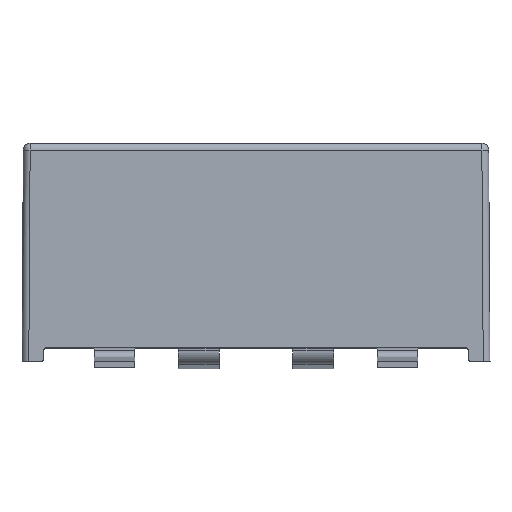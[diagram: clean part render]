
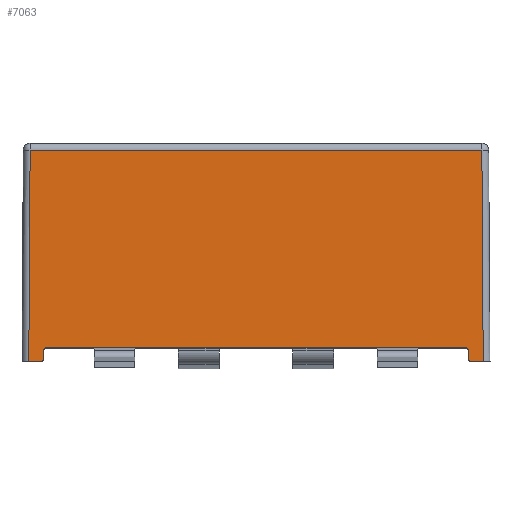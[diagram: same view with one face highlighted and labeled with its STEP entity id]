
A CAD part, top view. The second image highlights one B-rep face of the part: STEP entity #7063.
In plain terms, the highlighted planar face has unit normal (0, 0.006, 1).
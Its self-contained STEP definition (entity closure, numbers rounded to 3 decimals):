
#73 = EDGE_CURVE ( 'NONE', #5790, #1780, #3654, .T. ) ;
#169 = ORIENTED_EDGE ( 'NONE', *, *, #7553, .T. ) ;
#306 = CARTESIAN_POINT ( 'NONE',  ( -7.704, -7.51, 5.247 ) ) ;
#581 =( BOUNDED_CURVE ( )  B_SPLINE_CURVE ( 3, ( #7239, #1611, #4133, #306 ),
 .UNSPECIFIED., .F., .F. ) 
 B_SPLINE_CURVE_WITH_KNOTS ( ( 4, 4 ),
 ( 4.719, 6.283 ),
 .UNSPECIFIED. ) 
 CURVE ( )  GEOMETRIC_REPRESENTATION_ITEM ( )  RATIONAL_B_SPLINE_CURVE ( ( 1., 0.806, 0.806, 1. ) ) 
 REPRESENTATION_ITEM ( '' )  );
#610 = DIRECTION ( 'NONE',  ( -1., 0., 0. ) ) ;
#630 = CARTESIAN_POINT ( 'NONE',  ( 8.301, -0.248, 5.201 ) ) ;
#631 = VECTOR ( 'NONE', #2010, 1000. ) ;
#651 = CARTESIAN_POINT ( 'NONE',  ( 8.35, -7.958, 5.25 ) ) ;
#664 = VERTEX_POINT ( 'NONE', #883 ) ;
#820 = EDGE_CURVE ( 'NONE', #1100, #3605, #581, .T. ) ;
#883 = CARTESIAN_POINT ( 'NONE',  ( 7.804, -7.609, 5.247 ) ) ;
#962 = EDGE_CURVE ( 'NONE', #1780, #4447, #6209, .T. ) ;
#1034 = CARTESIAN_POINT ( 'NONE',  ( -7.806, -7.911, 5.249 ) ) ;
#1100 = VERTEX_POINT ( 'NONE', #4568 ) ;
#1268 = VERTEX_POINT ( 'NONE', #1825 ) ;
#1370 = CARTESIAN_POINT ( 'NONE',  ( -7.906, -8.01, 5.25 ) ) ;
#1426 = LINE ( 'NONE', #1838, #5942 ) ;
#1488 = DIRECTION ( 'NONE',  ( 0., -1., 0.006 ) ) ;
#1611 = CARTESIAN_POINT ( 'NONE',  ( -7.803, -7.551, 5.247 ) ) ;
#1780 = VERTEX_POINT ( 'NONE', #4013 ) ;
#1801 = EDGE_CURVE ( 'NONE', #6591, #3623, #7015, .T. ) ;
#1812 = CARTESIAN_POINT ( 'NONE',  ( 0., -8.01, 5.25 ) ) ;
#1825 = CARTESIAN_POINT ( 'NONE',  ( -8.35, -8.01, 5.25 ) ) ;
#1838 = CARTESIAN_POINT ( 'NONE',  ( 0., -8.01, 5.25 ) ) ;
#1845 = CARTESIAN_POINT ( 'NONE',  ( -7.847, -8.01, 5.25 ) ) ;
#1993 = ORIENTED_EDGE ( 'NONE', *, *, #962, .T. ) ;
#2010 = DIRECTION ( 'NONE',  ( -0.006, 1., -0.006 ) ) ;
#2051 = ORIENTED_EDGE ( 'NONE', *, *, #73, .T. ) ;
#2057 = CARTESIAN_POINT ( 'NONE',  ( -7.704, -7.51, 5.247 ) ) ;
#2340 = VECTOR ( 'NONE', #5639, 1000. ) ;
#2377 = CARTESIAN_POINT ( 'NONE',  ( 7.704, -7.51, 5.247 ) ) ;
#2443 = VECTOR ( 'NONE', #3010, 1000. ) ;
#2544 = EDGE_LOOP ( 'NONE', ( #6371, #2051, #1993, #169, #7007, #3047, #3195, #6891, #7038, #3996, #3182, #3796 ) ) ;
#2632 = CARTESIAN_POINT ( 'NONE',  ( -8.55, -0.248, 5.201 ) ) ;
#3009 = EDGE_CURVE ( 'NONE', #5230, #664, #3040, .T. ) ;
#3010 = DIRECTION ( 'NONE',  ( -0.006, 1., -0.006 ) ) ;
#3040 =( BOUNDED_CURVE ( )  B_SPLINE_CURVE ( 3, ( #6476, #6518, #4714, #5895 ),
 .UNSPECIFIED., .F., .F. ) 
 B_SPLINE_CURVE_WITH_KNOTS ( ( 4, 4 ),
 ( 0., 1.565 ),
 .UNSPECIFIED. ) 
 CURVE ( )  GEOMETRIC_REPRESENTATION_ITEM ( )  RATIONAL_B_SPLINE_CURVE ( ( 1., 0.806, 0.806, 1. ) ) 
 REPRESENTATION_ITEM ( '' )  );
#3047 = ORIENTED_EDGE ( 'NONE', *, *, #3995, .T. ) ;
#3182 = ORIENTED_EDGE ( 'NONE', *, *, #5762, .T. ) ;
#3195 = ORIENTED_EDGE ( 'NONE', *, *, #4702, .F. ) ;
#3357 = CARTESIAN_POINT ( 'NONE',  ( -7.803, -7.477, 5.247 ) ) ;
#3507 = EDGE_CURVE ( 'NONE', #3623, #1100, #6497, .T. ) ;
#3529 = CARTESIAN_POINT ( 'NONE',  ( 7.806, -7.911, 5.249 ) ) ;
#3605 = VERTEX_POINT ( 'NONE', #2057 ) ;
#3623 = VERTEX_POINT ( 'NONE', #3928 ) ;
#3654 =( BOUNDED_CURVE ( )  B_SPLINE_CURVE ( 3, ( #3529, #5438, #7924, #6745 ),
 .UNSPECIFIED., .F., .F. ) 
 B_SPLINE_CURVE_WITH_KNOTS ( ( 4, 4 ),
 ( 1.577, 3.142 ),
 .UNSPECIFIED. ) 
 CURVE ( )  GEOMETRIC_REPRESENTATION_ITEM ( )  RATIONAL_B_SPLINE_CURVE ( ( 1., 0.806, 0.806, 1. ) ) 
 REPRESENTATION_ITEM ( '' )  );
#3669 = CARTESIAN_POINT ( 'NONE',  ( -7.806, -7.969, 5.25 ) ) ;
#3767 = DIRECTION ( 'NONE',  ( 1., 0., 0. ) ) ;
#3796 = ORIENTED_EDGE ( 'NONE', *, *, #3009, .T. ) ;
#3902 = CARTESIAN_POINT ( 'NONE',  ( 0., -7.51, 5.247 ) ) ;
#3928 = CARTESIAN_POINT ( 'NONE',  ( -7.806, -7.911, 5.249 ) ) ;
#3995 = EDGE_CURVE ( 'NONE', #5737, #1268, #8001, .T. ) ;
#3996 = ORIENTED_EDGE ( 'NONE', *, *, #820, .T. ) ;
#4013 = CARTESIAN_POINT ( 'NONE',  ( 7.906, -8.01, 5.25 ) ) ;
#4025 = CARTESIAN_POINT ( 'NONE',  ( 7.803, -7.477, 5.247 ) ) ;
#4133 = CARTESIAN_POINT ( 'NONE',  ( -7.762, -7.51, 5.247 ) ) ;
#4249 = AXIS2_PLACEMENT_3D ( 'NONE', #4584, #7080, #1488 ) ;
#4324 = CARTESIAN_POINT ( 'NONE',  ( -7.906, -8.01, 5.25 ) ) ;
#4388 = EDGE_CURVE ( 'NONE', #5793, #5737, #5721, .T. ) ;
#4401 = LINE ( 'NONE', #651, #2443 ) ;
#4447 = VERTEX_POINT ( 'NONE', #6538 ) ;
#4507 = LINE ( 'NONE', #3902, #7669 ) ;
#4549 = CARTESIAN_POINT ( 'NONE',  ( -8.301, -0.248, 5.201 ) ) ;
#4568 = CARTESIAN_POINT ( 'NONE',  ( -7.804, -7.609, 5.247 ) ) ;
#4584 = CARTESIAN_POINT ( 'NONE',  ( 0., -8.01, 5.25 ) ) ;
#4702 = EDGE_CURVE ( 'NONE', #6591, #1268, #1426, .T. ) ;
#4714 = CARTESIAN_POINT ( 'NONE',  ( 7.803, -7.551, 5.247 ) ) ;
#4909 = DIRECTION ( 'NONE',  ( -0.006, -1., 0.006 ) ) ;
#5197 = PLANE ( 'NONE',  #4249 ) ;
#5230 = VERTEX_POINT ( 'NONE', #2377 ) ;
#5245 = VECTOR ( 'NONE', #4909, 1000. ) ;
#5438 = CARTESIAN_POINT ( 'NONE',  ( 7.806, -7.969, 5.25 ) ) ;
#5478 = CARTESIAN_POINT ( 'NONE',  ( -8.35, -7.958, 5.25 ) ) ;
#5639 = DIRECTION ( 'NONE',  ( -1., 0., 0. ) ) ;
#5651 = DIRECTION ( 'NONE',  ( 1., 0., 0. ) ) ;
#5721 = LINE ( 'NONE', #2632, #2340 ) ;
#5737 = VERTEX_POINT ( 'NONE', #4549 ) ;
#5744 = VECTOR ( 'NONE', #3767, 1000. ) ;
#5762 = EDGE_CURVE ( 'NONE', #3605, #5230, #4507, .T. ) ;
#5790 = VERTEX_POINT ( 'NONE', #6346 ) ;
#5793 = VERTEX_POINT ( 'NONE', #630 ) ;
#5895 = CARTESIAN_POINT ( 'NONE',  ( 7.804, -7.609, 5.247 ) ) ;
#5942 = VECTOR ( 'NONE', #610, 1000. ) ;
#6209 = LINE ( 'NONE', #1812, #5744 ) ;
#6297 = EDGE_CURVE ( 'NONE', #5790, #664, #6592, .T. ) ;
#6346 = CARTESIAN_POINT ( 'NONE',  ( 7.806, -7.911, 5.249 ) ) ;
#6371 = ORIENTED_EDGE ( 'NONE', *, *, #6297, .F. ) ;
#6476 = CARTESIAN_POINT ( 'NONE',  ( 7.704, -7.51, 5.247 ) ) ;
#6497 = LINE ( 'NONE', #3357, #7764 ) ;
#6518 = CARTESIAN_POINT ( 'NONE',  ( 7.762, -7.51, 5.247 ) ) ;
#6538 = CARTESIAN_POINT ( 'NONE',  ( 8.35, -8.01, 5.25 ) ) ;
#6591 = VERTEX_POINT ( 'NONE', #1370 ) ;
#6592 = LINE ( 'NONE', #4025, #631 ) ;
#6745 = CARTESIAN_POINT ( 'NONE',  ( 7.906, -8.01, 5.25 ) ) ;
#6891 = ORIENTED_EDGE ( 'NONE', *, *, #1801, .T. ) ;
#7007 = ORIENTED_EDGE ( 'NONE', *, *, #4388, .T. ) ;
#7015 =( BOUNDED_CURVE ( )  B_SPLINE_CURVE ( 3, ( #4324, #1845, #3669, #1034 ),
 .UNSPECIFIED., .F., .F. ) 
 B_SPLINE_CURVE_WITH_KNOTS ( ( 4, 4 ),
 ( 3.142, 4.706 ),
 .UNSPECIFIED. ) 
 CURVE ( )  GEOMETRIC_REPRESENTATION_ITEM ( )  RATIONAL_B_SPLINE_CURVE ( ( 1., 0.806, 0.806, 1. ) ) 
 REPRESENTATION_ITEM ( '' )  );
#7038 = ORIENTED_EDGE ( 'NONE', *, *, #3507, .T. ) ;
#7063 = ADVANCED_FACE ( 'NONE', ( #7724 ), #5197, .T. ) ;
#7080 = DIRECTION ( 'NONE',  ( 0., 0.006, 1. ) ) ;
#7112 = DIRECTION ( 'NONE',  ( 0.006, 1., -0.006 ) ) ;
#7239 = CARTESIAN_POINT ( 'NONE',  ( -7.804, -7.609, 5.247 ) ) ;
#7553 = EDGE_CURVE ( 'NONE', #4447, #5793, #4401, .T. ) ;
#7669 = VECTOR ( 'NONE', #5651, 1000. ) ;
#7724 = FACE_OUTER_BOUND ( 'NONE', #2544, .T. ) ;
#7764 = VECTOR ( 'NONE', #7112, 1000. ) ;
#7924 = CARTESIAN_POINT ( 'NONE',  ( 7.847, -8.01, 5.25 ) ) ;
#8001 = LINE ( 'NONE', #5478, #5245 ) ;
